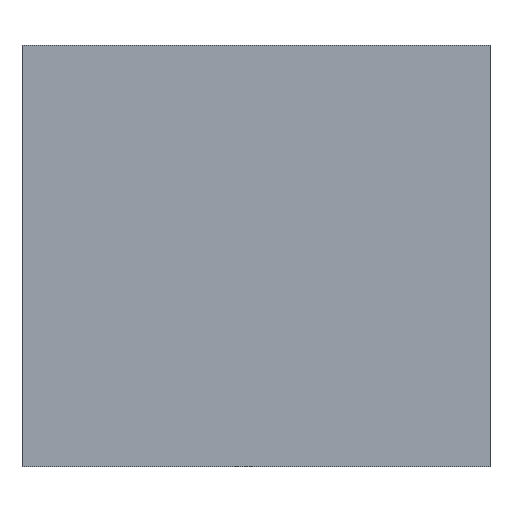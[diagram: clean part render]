
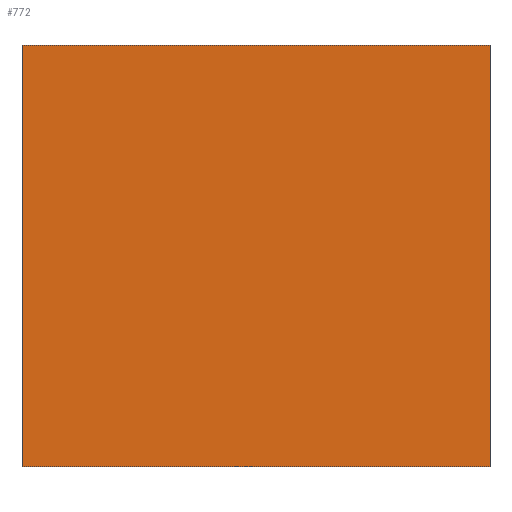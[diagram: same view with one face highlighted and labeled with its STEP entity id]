
A CAD part, front view. The second image highlights one B-rep face of the part: STEP entity #772.
In plain terms, the highlighted planar face has unit normal (0, -1, 0).
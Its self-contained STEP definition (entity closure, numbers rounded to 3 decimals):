
#15=LINE('',#1337,#27);
#19=LINE('',#1345,#31);
#22=LINE('',#1351,#34);
#25=LINE('',#1356,#37);
#27=VECTOR('',#1109,225.);
#31=VECTOR('',#1115,250.);
#34=VECTOR('',#1120,225.);
#37=VECTOR('',#1125,250.);
#44=PLANE('',#896);
#189=FACE_OUTER_BOUND('',#311,.T.);
#311=EDGE_LOOP('',(#662,#663,#664,#665));
#444=VERTEX_POINT('',#1335);
#445=VERTEX_POINT('',#1336);
#448=VERTEX_POINT('',#1344);
#450=VERTEX_POINT('',#1350);
#514=EDGE_CURVE('',#444,#445,#15,.T.);
#518=EDGE_CURVE('',#448,#444,#19,.T.);
#521=EDGE_CURVE('',#450,#448,#22,.T.);
#524=EDGE_CURVE('',#445,#450,#25,.T.);
#662=ORIENTED_EDGE('',*,*,#521,.F.);
#663=ORIENTED_EDGE('',*,*,#524,.F.);
#664=ORIENTED_EDGE('',*,*,#514,.F.);
#665=ORIENTED_EDGE('',*,*,#518,.F.);
#772=ADVANCED_FACE('',(#189),#44,.F.);
#896=AXIS2_PLACEMENT_3D('',#1375,#1145,#1146);
#1109=DIRECTION('',(0.,0.,-1.));
#1115=DIRECTION('',(1.,0.,0.));
#1120=DIRECTION('',(0.,0.,1.));
#1125=DIRECTION('',(-1.,0.,0.));
#1145=DIRECTION('center_axis',(0.,1.,0.));
#1146=DIRECTION('ref_axis',(0.,0.,1.));
#1335=CARTESIAN_POINT('',(125.,0.,112.5));
#1336=CARTESIAN_POINT('',(125.,0.,-112.5));
#1337=CARTESIAN_POINT('',(125.,0.,112.5));
#1344=CARTESIAN_POINT('',(-125.,0.,112.5));
#1345=CARTESIAN_POINT('',(-125.,0.,112.5));
#1350=CARTESIAN_POINT('',(-125.,0.,-112.5));
#1351=CARTESIAN_POINT('',(-125.,0.,-112.5));
#1356=CARTESIAN_POINT('',(125.,0.,-112.5));
#1375=CARTESIAN_POINT('Origin',(-34.665,0.,-34.665));
